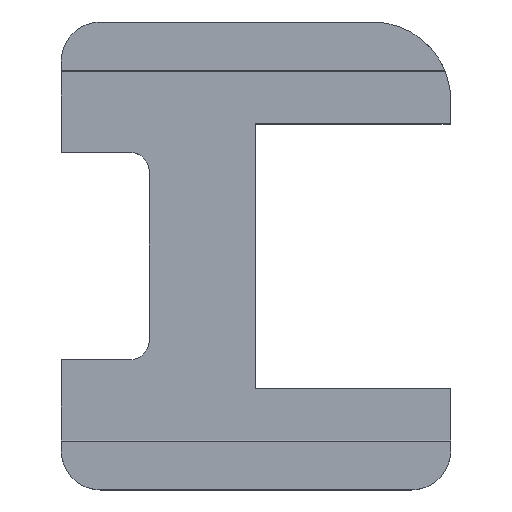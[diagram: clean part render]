
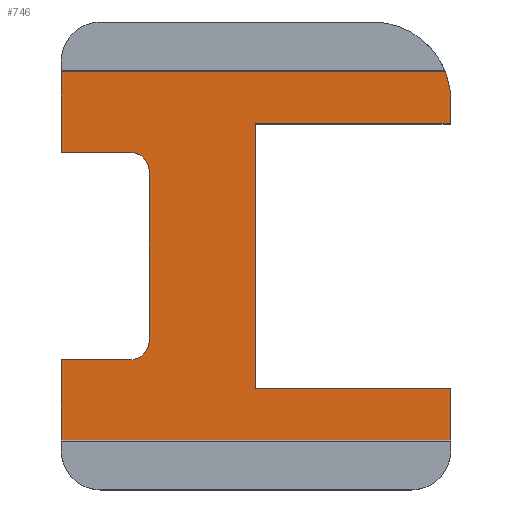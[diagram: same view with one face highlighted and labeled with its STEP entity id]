
A CAD part, top view. The second image highlights one B-rep face of the part: STEP entity #746.
In plain terms, the highlighted planar face has unit normal (0, 0, 1).
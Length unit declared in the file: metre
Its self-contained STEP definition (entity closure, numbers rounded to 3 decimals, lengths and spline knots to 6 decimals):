
#30=CIRCLE('',#809,0.004);
#31=CIRCLE('',#810,0.001);
#32=CIRCLE('',#811,0.001);
#103=ORIENTED_EDGE('',*,*,#312,.F.);
#104=ORIENTED_EDGE('',*,*,#313,.T.);
#105=ORIENTED_EDGE('',*,*,#314,.T.);
#106=ORIENTED_EDGE('',*,*,#270,.F.);
#107=ORIENTED_EDGE('',*,*,#266,.F.);
#108=ORIENTED_EDGE('',*,*,#315,.T.);
#109=ORIENTED_EDGE('',*,*,#316,.F.);
#110=ORIENTED_EDGE('',*,*,#317,.T.);
#111=ORIENTED_EDGE('',*,*,#259,.T.);
#112=ORIENTED_EDGE('',*,*,#301,.F.);
#113=ORIENTED_EDGE('',*,*,#310,.F.);
#114=ORIENTED_EDGE('',*,*,#318,.T.);
#115=ORIENTED_EDGE('',*,*,#319,.T.);
#116=ORIENTED_EDGE('',*,*,#307,.T.);
#117=ORIENTED_EDGE('',*,*,#320,.F.);
#259=EDGE_CURVE('',#368,#369,#436,.T.);
#266=EDGE_CURVE('',#375,#376,#443,.T.);
#270=EDGE_CURVE('',#376,#379,#447,.T.);
#301=EDGE_CURVE('',#405,#369,#472,.T.);
#307=EDGE_CURVE('',#411,#410,#478,.T.);
#310=EDGE_CURVE('',#412,#405,#481,.T.);
#312=EDGE_CURVE('',#414,#415,#483,.T.);
#313=EDGE_CURVE('',#414,#416,#30,.T.);
#314=EDGE_CURVE('',#416,#379,#484,.T.);
#315=EDGE_CURVE('',#375,#417,#31,.F.);
#316=EDGE_CURVE('',#418,#417,#485,.T.);
#317=EDGE_CURVE('',#418,#368,#32,.F.);
#318=EDGE_CURVE('',#412,#419,#486,.T.);
#319=EDGE_CURVE('',#419,#411,#487,.T.);
#320=EDGE_CURVE('',#415,#410,#488,.T.);
#368=VERTEX_POINT('',#1072);
#369=VERTEX_POINT('',#1073);
#375=VERTEX_POINT('',#1086);
#376=VERTEX_POINT('',#1088);
#379=VERTEX_POINT('',#1096);
#405=VERTEX_POINT('',#1157);
#410=VERTEX_POINT('',#1170);
#411=VERTEX_POINT('',#1172);
#412=VERTEX_POINT('',#1176);
#414=VERTEX_POINT('',#1182);
#415=VERTEX_POINT('',#1183);
#416=VERTEX_POINT('',#1185);
#417=VERTEX_POINT('',#1188);
#418=VERTEX_POINT('',#1190);
#419=VERTEX_POINT('',#1193);
#436=LINE('',#1071,#526);
#443=LINE('',#1087,#533);
#447=LINE('',#1095,#537);
#472=LINE('',#1158,#562);
#478=LINE('',#1171,#568);
#481=LINE('',#1178,#571);
#483=LINE('',#1181,#573);
#484=LINE('',#1186,#574);
#485=LINE('',#1189,#575);
#486=LINE('',#1192,#576);
#487=LINE('',#1194,#577);
#488=LINE('',#1195,#578);
#526=VECTOR('',#857,1.);
#533=VECTOR('',#866,1.);
#537=VECTOR('',#872,1.);
#562=VECTOR('',#919,1.);
#568=VECTOR('',#929,1.);
#571=VECTOR('',#934,1.);
#573=VECTOR('',#938,1.);
#574=VECTOR('',#941,1.);
#575=VECTOR('',#944,1.);
#576=VECTOR('',#947,1.);
#577=VECTOR('',#948,1.);
#578=VECTOR('',#949,1.);
#627=EDGE_LOOP('',(#103,#104,#105,#106,#107,#108,#109,#110,#111,#112,#113,
#114,#115,#116,#117));
#670=FACE_BOUND('',#627,.T.);
#713=PLANE('',#808);
#746=ADVANCED_FACE('',(#670),#713,.T.);
#808=AXIS2_PLACEMENT_3D('',#1180,#936,#937);
#809=AXIS2_PLACEMENT_3D('',#1184,#939,#940);
#810=AXIS2_PLACEMENT_3D('',#1187,#942,#943);
#811=AXIS2_PLACEMENT_3D('',#1191,#945,#946);
#857=DIRECTION('',(-1.,0.,0.));
#866=DIRECTION('',(-1.,0.,0.));
#872=DIRECTION('',(0.,1.,0.));
#919=DIRECTION('',(0.,1.,0.));
#929=DIRECTION('',(0.,1.,0.));
#934=DIRECTION('',(-1.,0.,0.));
#936=DIRECTION('',(0.,0.,1.));
#937=DIRECTION('',(1.,0.,0.));
#938=DIRECTION('',(0.,-1.,0.));
#939=DIRECTION('',(0.,0.,1.));
#940=DIRECTION('',(1.,0.,0.));
#941=DIRECTION('',(-1.,0.,0.));
#942=DIRECTION('',(0.,0.,1.));
#943=DIRECTION('',(1.,0.,0.));
#944=DIRECTION('',(0.,1.,0.));
#945=DIRECTION('',(0.,0.,1.));
#946=DIRECTION('',(1.,0.,0.));
#947=DIRECTION('',(0.,1.,0.));
#948=DIRECTION('',(-1.,0.,0.));
#949=DIRECTION('',(-1.,0.,0.));
#1071=CARTESIAN_POINT('',(0.251202,-0.007035,0.00125));
#1072=CARTESIAN_POINT('',(0.24457,-0.007035,0.00125));
#1073=CARTESIAN_POINT('',(0.24107,-0.007035,0.00125));
#1086=CARTESIAN_POINT('',(0.24457,0.003585,0.00125));
#1087=CARTESIAN_POINT('',(0.251202,0.003585,0.00125));
#1088=CARTESIAN_POINT('',(0.24107,0.003585,0.00125));
#1095=CARTESIAN_POINT('',(0.24107,-0.009819,0.00125));
#1096=CARTESIAN_POINT('',(0.24107,0.007702,0.00125));
#1157=CARTESIAN_POINT('',(0.24107,-0.011152,0.00125));
#1158=CARTESIAN_POINT('',(0.24107,-0.009819,0.00125));
#1170=CARTESIAN_POINT('',(0.251,0.005035,0.00125));
#1171=CARTESIAN_POINT('',(0.251,-0.001725,0.00125));
#1172=CARTESIAN_POINT('',(0.251,-0.008485,0.00125));
#1176=CARTESIAN_POINT('',(0.261,-0.011152,0.00125));
#1178=CARTESIAN_POINT('',(0.261002,-0.011152,0.00125));
#1180=CARTESIAN_POINT('',(0.261002,-0.009819,0.00125));
#1181=CARTESIAN_POINT('',(0.261,0.006369,0.00125));
#1182=CARTESIAN_POINT('',(0.261,0.00625,0.00125));
#1183=CARTESIAN_POINT('',(0.261,0.005035,0.00125));
#1184=CARTESIAN_POINT('',(0.257,0.00625,0.00125));
#1185=CARTESIAN_POINT('',(0.260727,0.007702,0.00125));
#1186=CARTESIAN_POINT('',(0.261002,0.007702,0.00125));
#1187=CARTESIAN_POINT('',(0.24457,0.002585,0.00125));
#1188=CARTESIAN_POINT('',(0.24557,0.002585,0.00125));
#1189=CARTESIAN_POINT('',(0.24557,-0.001725,0.00125));
#1190=CARTESIAN_POINT('',(0.24557,-0.006035,0.00125));
#1191=CARTESIAN_POINT('',(0.24457,-0.006035,0.00125));
#1192=CARTESIAN_POINT('',(0.261,-0.009819,0.00125));
#1193=CARTESIAN_POINT('',(0.261,-0.008485,0.00125));
#1194=CARTESIAN_POINT('',(0.261002,-0.008485,0.00125));
#1195=CARTESIAN_POINT('',(0.261002,0.005035,0.00125));
